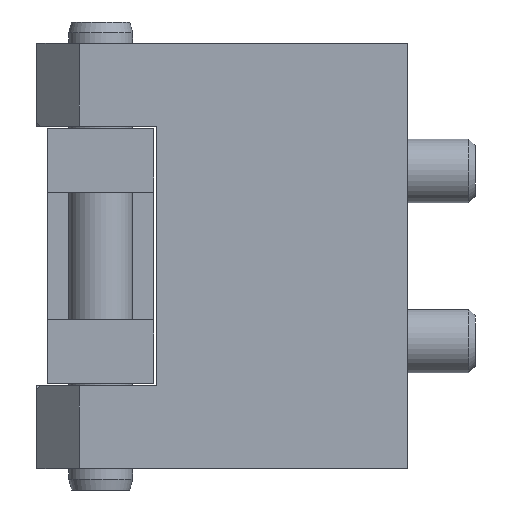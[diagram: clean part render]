
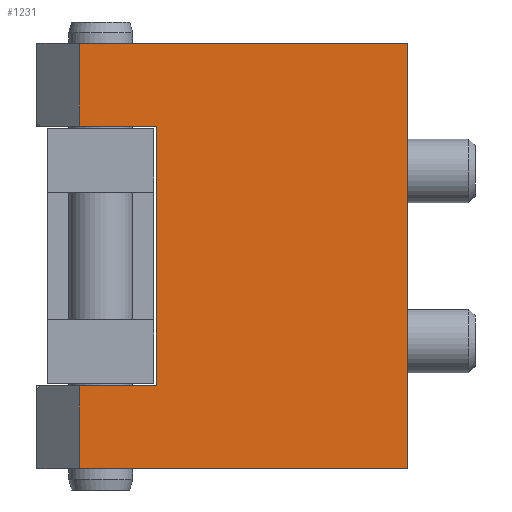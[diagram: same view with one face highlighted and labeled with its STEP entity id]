
A CAD part, left-side view. The second image highlights one B-rep face of the part: STEP entity #1231.
In plain terms, the highlighted planar face has unit normal (-1, 0, 0).
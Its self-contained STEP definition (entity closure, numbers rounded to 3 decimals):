
#84=LINE('',#2017,#174);
#87=LINE('',#2022,#177);
#90=LINE('',#2029,#180);
#103=LINE('',#2059,#193);
#107=LINE('',#2065,#197);
#116=LINE('',#2084,#206);
#117=LINE('',#2086,#207);
#118=LINE('',#2087,#208);
#174=VECTOR('',#1600,3.9);
#177=VECTOR('',#1605,3.6);
#180=VECTOR('',#1610,3.9);
#193=VECTOR('',#1635,3.6);
#197=VECTOR('',#1643,12.2);
#206=VECTOR('',#1662,15.42);
#207=VECTOR('',#1663,20.);
#208=VECTOR('',#1664,15.42);
#291=FACE_OUTER_BOUND('',#446,.T.);
#446=EDGE_LOOP('',(#1008,#1009,#1010,#1011,#1012,#1013,#1014,#1015));
#579=VERTEX_POINT('',#2014);
#580=VERTEX_POINT('',#2016);
#581=VERTEX_POINT('',#2020);
#583=VERTEX_POINT('',#2026);
#584=VERTEX_POINT('',#2028);
#595=VERTEX_POINT('',#2058);
#600=VERTEX_POINT('',#2083);
#601=VERTEX_POINT('',#2085);
#709=EDGE_CURVE('',#579,#580,#84,.T.);
#712=EDGE_CURVE('',#579,#581,#87,.T.);
#715=EDGE_CURVE('',#583,#584,#90,.T.);
#730=EDGE_CURVE('',#595,#584,#103,.T.);
#734=EDGE_CURVE('',#581,#595,#107,.T.);
#743=EDGE_CURVE('',#583,#600,#116,.T.);
#744=EDGE_CURVE('',#600,#601,#117,.T.);
#745=EDGE_CURVE('',#601,#580,#118,.T.);
#1008=ORIENTED_EDGE('',*,*,#712,.T.);
#1009=ORIENTED_EDGE('',*,*,#734,.T.);
#1010=ORIENTED_EDGE('',*,*,#730,.T.);
#1011=ORIENTED_EDGE('',*,*,#715,.F.);
#1012=ORIENTED_EDGE('',*,*,#743,.T.);
#1013=ORIENTED_EDGE('',*,*,#744,.T.);
#1014=ORIENTED_EDGE('',*,*,#745,.T.);
#1015=ORIENTED_EDGE('',*,*,#709,.F.);
#1085=PLANE('',#1347);
#1231=ADVANCED_FACE('',(#291),#1085,.T.);
#1347=AXIS2_PLACEMENT_3D('',#2082,#1660,#1661);
#1600=DIRECTION('',(0.,0.,1.));
#1605=DIRECTION('',(0.,-1.,0.));
#1610=DIRECTION('',(0.,0.,1.));
#1635=DIRECTION('',(0.,1.,0.));
#1643=DIRECTION('',(0.,0.,-1.));
#1660=DIRECTION('center_axis',(-1.,0.,0.));
#1661=DIRECTION('ref_axis',(0.,0.,1.));
#1662=DIRECTION('',(0.,-1.,0.));
#1663=DIRECTION('',(0.,0.,1.));
#1664=DIRECTION('',(0.,1.,0.));
#2014=CARTESIAN_POINT('',(-27.25,71.667,6.1));
#2016=CARTESIAN_POINT('',(-27.25,71.667,10.));
#2017=CARTESIAN_POINT('',(-27.25,71.667,0.));
#2020=CARTESIAN_POINT('',(-27.25,68.067,6.1));
#2022=CARTESIAN_POINT('',(-27.25,62.058,6.1));
#2026=CARTESIAN_POINT('',(-27.25,71.667,-10.));
#2028=CARTESIAN_POINT('',(-27.25,71.667,-6.1));
#2029=CARTESIAN_POINT('',(-27.25,71.667,0.));
#2058=CARTESIAN_POINT('',(-27.25,68.067,-6.1));
#2059=CARTESIAN_POINT('',(-27.25,62.058,-6.1));
#2065=CARTESIAN_POINT('',(-27.25,68.067,0.));
#2082=CARTESIAN_POINT('Origin',(-27.25,56.247,0.));
#2083=CARTESIAN_POINT('',(-27.25,56.247,-10.));
#2084=CARTESIAN_POINT('',(-27.25,71.667,-10.));
#2085=CARTESIAN_POINT('',(-27.25,56.247,10.));
#2086=CARTESIAN_POINT('',(-27.25,56.247,0.));
#2087=CARTESIAN_POINT('',(-27.25,71.667,10.));
